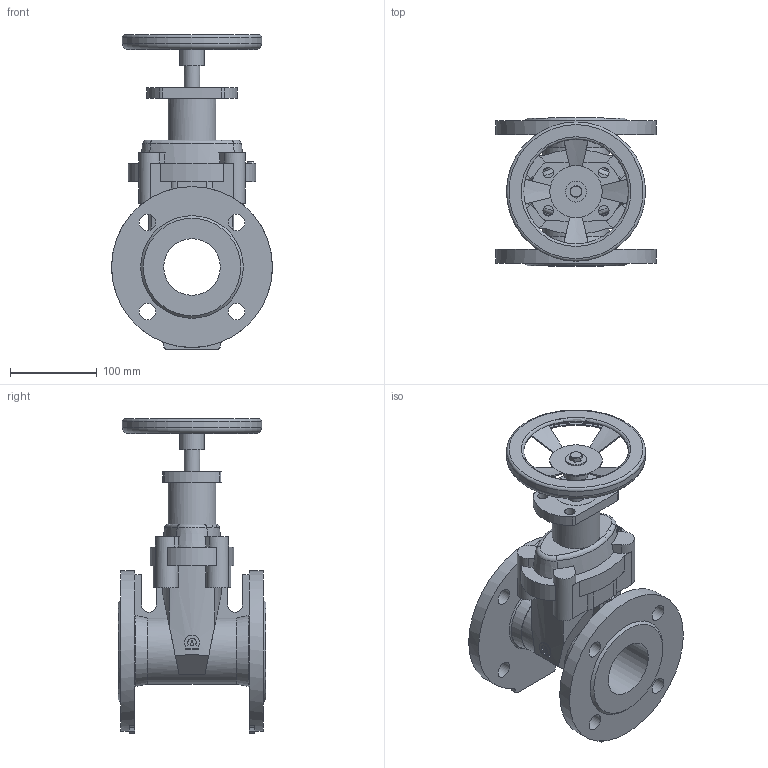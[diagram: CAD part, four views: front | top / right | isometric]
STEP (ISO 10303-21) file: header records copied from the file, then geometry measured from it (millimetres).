
FILE_DESCRIPTION(('STEP AP203'), '1');
FILE_NAME('Çàäâèæêà 47GV.M DN65 ñ ìàõîâèêîì', '', ('UNSPECIFIED'), ('UNSPECIFIED'), 'ASCON STEP Converter 1.6', 'ASCON Math Kernel', '');
FILE_SCHEMA(('CONFIG_CONTROL_DESIGN'));
Length unit declared in the file: millimetre
Bounding box: 185 x 170 x 361.5 mm (x, y, z)
Volume: 2125048.5 mm3; surface area: 315806.3 mm2
Topology: 1 solids, 1 shells, 240 faces, 635 edges, 408 vertices
Faces by surface type: plane 121, cylinder 85, cone 20, torus 14
Full cylindrical faces by diameter (mm): 12 x4, 18 x1, 19 x8, 24 x1, 28 x1, 52 x1, 55 x1, 65 x1, 123 x1, 157 x1, 160 x1, 185 x2
Entity records: 10683 total; most frequent: CARTESIAN_POINT 2797, DIRECTION 1256, ORIENTED_EDGE 1200, EDGE_CURVE 600, AXIS2_PLACEMENT_3D 487, VERTEX_POINT 408, EDGE_LOOP 320, LINE 282
